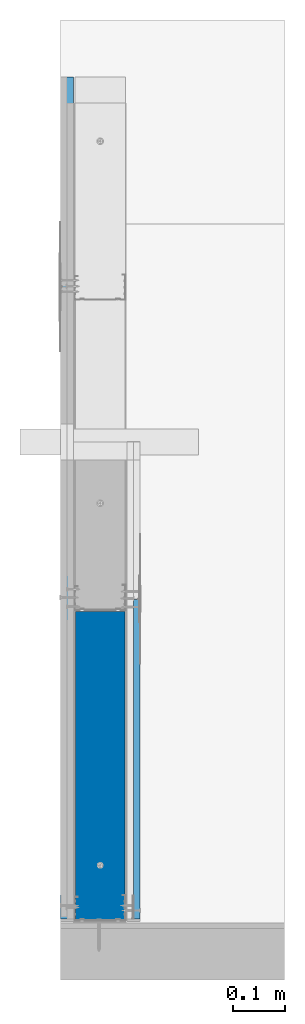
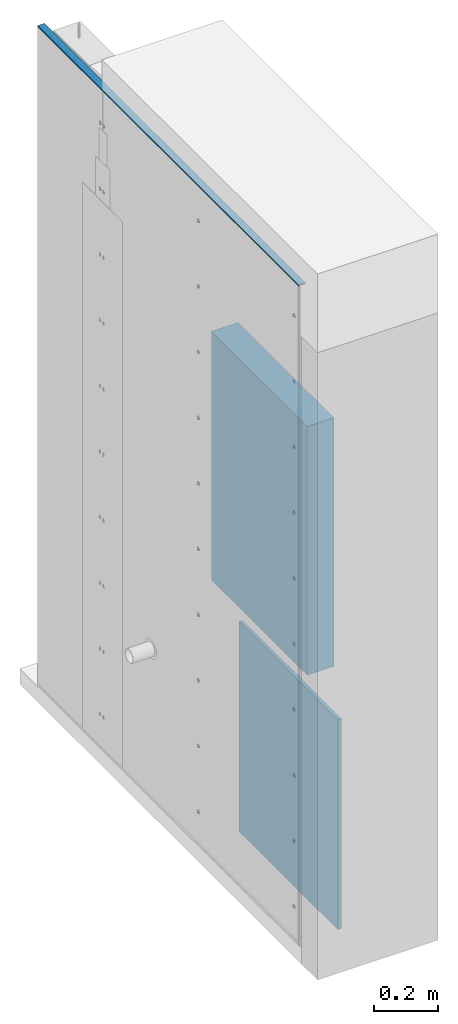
# One storey, part 4 of 92: 3 walls.
"""IFC2X3 building model written with IfcOpenShell, lengths in millimetres."""

from ifc_helpers import new_model, si_unit, frame, origin_with_axes, place, context, subcontext, project, spatial, faceted_brep, material, type_object, element, save


model = new_model("IFC2X3")

# Units and contexts
model_context = context("Model", 3, world=origin_with_axes())
body_context = subcontext(model_context, "Body", "Model", "MODEL_VIEW")
ifc_project = project(units=[si_unit("LENGTHUNIT", "METRE", prefix="MILLI"), si_unit("AREAUNIT", "SQUARE_METRE"), si_unit("VOLUMEUNIT", "CUBIC_METRE")], contexts=[model_context])

# Site, building, storey
site_placement = place(None, origin_with_axes())
site = spatial("IfcSite", under=ifc_project, at=site_placement, Name="Default Site", CompositionType="ELEMENT")
building_placement = place(site_placement, origin_with_axes())
building = spatial("IfcBuilding", under=site, at=building_placement, Name="Default Building", CompositionType="ELEMENT")
storey_placement = place(building_placement, origin_with_axes())
storey = spatial("IfcBuildingStorey", under=building, at=storey_placement, Name="Default Building Storey", CompositionType="ELEMENT", Elevation=0.0)

# Walls
ifc_material_1 = material(Name="Undefined6")
wall_type_1 = type_object("IfcWallType", Name="Płyta gipsowo-kartonowa RIGIPS PRO (4PRO™)#6", PredefinedType="NOTDEFINED")
wall_1_placement = place(storey_placement, frame((141.49617245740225, 735.6184954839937, 1119.9925624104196), z_axis=(0.0, 0.0, 1.0), x_axis=(6.38530894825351e-13, -1.0, 0.0)))
element("IfcWall", 1, at=wall_1_placement, inside=storey, type_object=wall_type_1, material=ifc_material_1, Name="Płyta gipsowo-kartonowa RIGIPS PRO (4PRO™)", context=body_context, shape_type="Brep", body=[
    faceted_brep([(617.6436866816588, 12.500000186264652, -250.0), (617.6436866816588, -2.1305410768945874e-10, -250.0), (617.6436866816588, -1.1740084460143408e-10, -1050.001621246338), (617.6436866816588, 12.500000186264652, -1050.001621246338), (45.000001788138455, 12.50000018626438, -1050.001621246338), (45.000001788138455, 12.50000018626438, -250.0), (41.00000113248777, 11.500000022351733, -250.0), (41.00000113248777, 11.500000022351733, -1050.001621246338), (1.0000000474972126, 11.500000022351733, -250.0), (1.0000000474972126, 11.500000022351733, -1050.001621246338), (0.7411809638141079, 11.465925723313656, -250.0), (0.7411809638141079, 11.465925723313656, -1050.001621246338), (0.5000000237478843, 11.36602554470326, -250.0), (0.5000000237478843, 11.36602554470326, -1050.001621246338), (0.2928932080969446, 11.207106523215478, -250.0), (0.2928932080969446, 11.207106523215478, -1050.001621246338), (0.13397459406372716, 10.999999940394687, -250.0), (0.13397459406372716, 10.999999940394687, -1050.001621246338), (0.03407417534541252, 10.758819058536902, -250.0), (0.03407417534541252, 10.758819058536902, -1050.001621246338), (-5.4143356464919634e-12, 10.499999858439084, -250.0), (-5.4143356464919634e-12, 10.499999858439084, -1050.001621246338), (-7.219114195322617e-13, 0.0, -250.0), (-7.219114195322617e-13, 0.0, -1050.001621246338)], [[[0, 1, 2, 3]], [[0, 3, 4, 5]], [[6, 5, 4, 7]], [[8, 6, 7, 9]], [[10, 8, 9, 11]], [[12, 10, 11, 13]], [[14, 12, 13, 15]], [[16, 14, 15, 17]], [[18, 16, 17, 19]], [[20, 18, 19, 21]], [[22, 20, 21, 23]], [[23, 2, 1, 22]], [[4, 3, 2, 23, 21, 19, 17, 15, 13, 11, 9, 7]], [[1, 0, 5, 6, 8, 10, 12, 14, 16, 18, 20, 22]]]),
])
ifc_material_2 = material(Name="Undefined7")
wall_type_2 = type_object("IfcWallType", Name="Wełna mineralna szklana lub skalna ISOVER#3", PredefinedType="NOTDEFINED")
wall_2_placement = place(storey_placement, frame((-3300.1804365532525, 24.84537206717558, 1317.661340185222), z_axis=(0.0, 0.0, 1.0), x_axis=(-8.743006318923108e-16, -1.0, 0.0)))
element("IfcWall", 2, at=wall_2_placement, inside=storey, type_object=wall_type_2, material=ifc_material_2, Name="Wełna mineralna szklana lub skalna ISOVER", context=body_context, shape_type="Brep", body=[
    faceted_brep([(-687.8212094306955, 3329.283237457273, 710.0263702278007), (-687.821209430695, 3425.092905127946, 710.0263702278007), (-687.821209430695, 3425.092905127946, -236.9700000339), (-687.8212094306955, 3329.283237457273, -236.9700000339), (-90.17122761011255, 3425.092905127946, -236.9700000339), (-90.17122761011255, 3329.283237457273, -236.9700000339), (-90.17122761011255, 3425.092905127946, 710.0263702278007), (-90.17122761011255, 3329.283237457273, 710.0263702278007)], [[[0, 1, 2, 3]], [[2, 4, 5, 3]], [[1, 6, 4, 2]], [[3, 5, 7, 0]], [[6, 7, 5, 4]]]),
    faceted_brep([(-687.8212094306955, 3329.283237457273, 710.0263702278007), (-90.17122761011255, 3329.283237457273, 710.0263702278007), (-90.17122761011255, 3425.092905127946, 710.0263702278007), (-687.821209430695, 3425.092905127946, 710.0263702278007)], [[[0, 1, 2, 3]]]),
])
ifc_material_3 = material(Name="Undefined5")
wall_type_3 = type_object("IfcWallType", Name="Masa szpachlowa konstrukcyjna RIGIPS#10", PredefinedType="NOTDEFINED")
wall_3_placement = place(storey_placement, frame((0.35000000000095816, 1928.2430455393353, 2580.00999955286), z_axis=(5.273559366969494e-16, -2.122374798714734e-31, -1.0), x_axis=(4.0245584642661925e-16, 1.0, 0.0)))
element("IfcWall", 3, at=wall_3_placement, inside=storey, type_object=wall_type_3, material=ifc_material_3, Name="Masa szpachlowa konstrukcyjna RIGIPS", context=body_context, shape_type="Brep", body=[
    faceted_brep([(-182.11096525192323, 24.646170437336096, 4.999999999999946), (-182.11096525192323, -0.3499999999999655, 4.999999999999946), (-1810.2386538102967, -0.3499999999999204, 4.999999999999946), (-1810.2386538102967, 24.64617043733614, 4.999999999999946), (-182.11096525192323, -0.3499999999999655, 10.00439262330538), (-1810.2386538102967, -0.3499999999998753, 10.00439262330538), (-182.11096525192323, 24.646170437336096, 10.00439262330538), (-1810.2386538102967, 24.64617043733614, 10.00439262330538)], [[[0, 1, 2, 3]], [[1, 4, 5, 2]], [[4, 6, 7, 5]], [[6, 0, 3, 7]], [[7, 3, 2, 5]], [[0, 6, 4, 1]]]),
])

save(model, "model.ifc")
